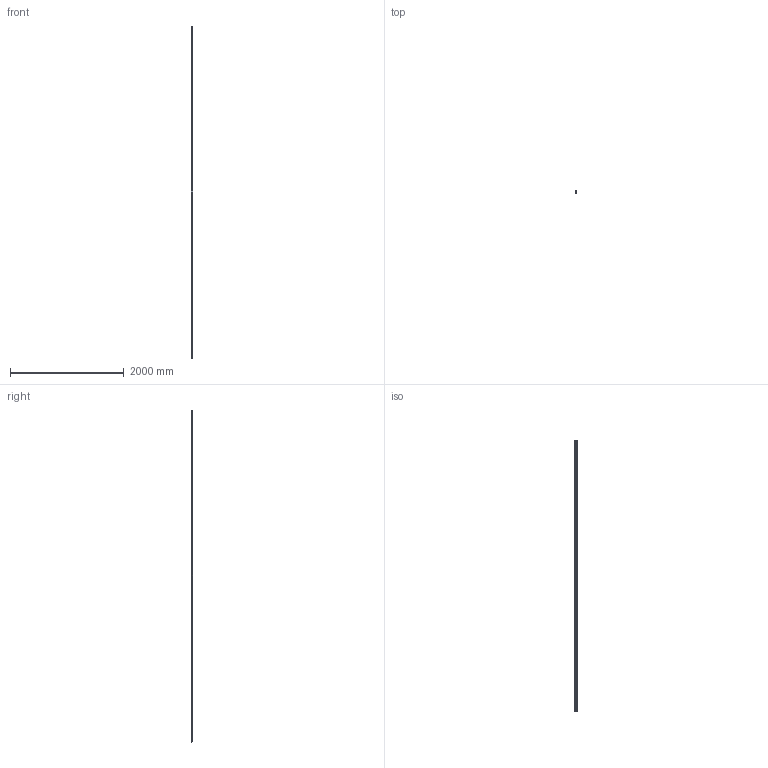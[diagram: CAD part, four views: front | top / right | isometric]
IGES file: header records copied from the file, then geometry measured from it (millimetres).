
Start section: 3D InterOp IGES (v. 2019 1.0.2), Spatial Corp. Copyright (c) 1999-2017.
Global section: file name: R1605.6_size30.igs; native system: Spatial Corp.; preprocessor: 3D InterOp GENERIC/IGES 3.0; author: Noname; organization: Noname; date: 20220629.163505; units: millimetre
Bounding box: 28 x 29.75 x 5847.01 mm (x, y, z)
Surface area: 1076560.8 mm2 (no closed solid volume)
Topology: 0 solids, 0 shells, 1403 faces, 7592 edges, 7588 vertices
Faces by surface type: extrusion 989, revolution 414
